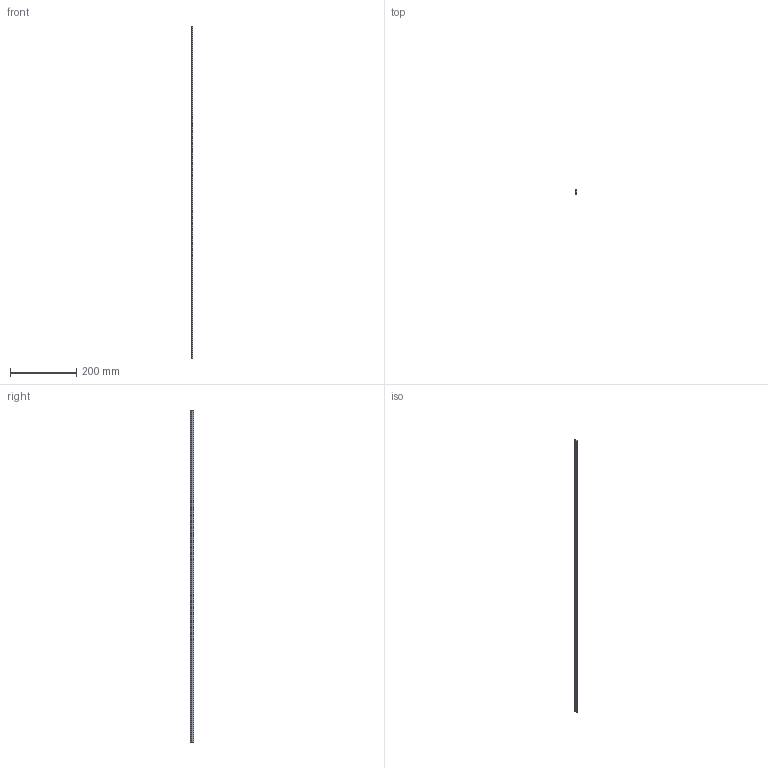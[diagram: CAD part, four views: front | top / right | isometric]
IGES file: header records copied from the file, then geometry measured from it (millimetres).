
Start section: 3D InterOp IGES (v. 2019 1.0.2), Spatial Corp. Copyright (c) 1999-2017.
Global section: file name: T1SS-1000.igs; native system: Spatial Corp.; preprocessor: 3D InterOp GENERIC/IGES 3.0; author: Noname; organization: Noname; date: 20200930.105808; units: millimetre
Bounding box: 4.75 x 10.99 x 1000 mm (x, y, z)
Surface area: 28312.4 mm2 (no closed solid volume)
Topology: 0 solids, 0 shells, 19 faces, 102 edges, 102 vertices
Faces by surface type: revolution 10, extrusion 9
